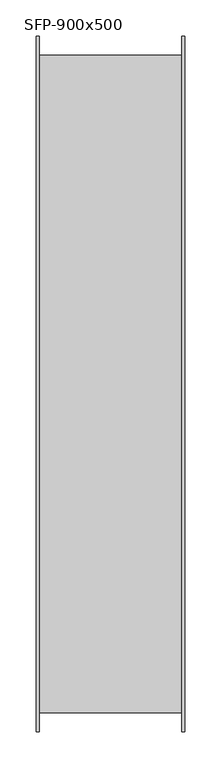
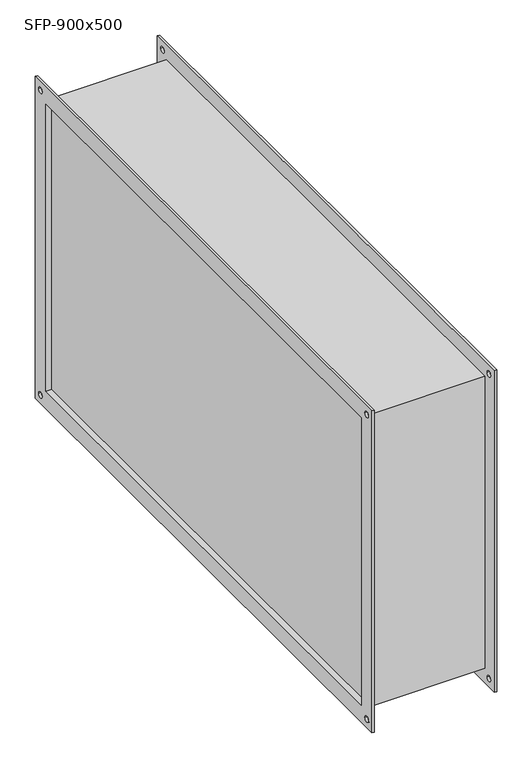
"""IFC4 building model written with IfcOpenShell, lengths in millimetres: damper geometry, СВ_ФильтрКассетный_КанальныйПрямоугольный_200-1000_SFP : SFP-900x500."""

from ifc_helpers import new_model, si_unit, frame, origin, place, context, project, spatial, polyline, circle_curve, outline, extrude, source, transform, mapped, element, save
from ifc_brep_helpers import plane_surface, revolved_surface, advanced_brep


def sfp_900x500_36470b2f(model_context):
    return source(origin(), model_context, "Body", "SolidModel", [
        extrude(outline(polyline([(92.5, 450.0), (92.5, -450.0), (-92.5, -450.0), (-92.5, 450.0), (92.5, 450.0)])), frame((0.0, 0.0, -250.0), z_axis=(0.0, 0.0, 1.0), x_axis=(1.0, 0.0, 0.0)), (0.0, 0.0, 1.0), 500.0),
        advanced_brep(
        [(98.5, -454.0, 254.0), (-98.5, -454.0, 254.0), (-98.5, -454.0, -254.0), (98.5, -454.0, -254.0), (-98.5, 454.0, -254.0), (98.5, 454.0, -254.0), (-98.5, 454.0, 254.0), (98.5, 454.0, 254.0), (-102.5, -480.0, 280.0), (-102.5, 480.0, 280.0), (-102.5, 480.0, -280.0), (-102.5, -480.0, -280.0), (-102.5, -450.0, 250.0), (-102.5, -450.0, -250.0), (-102.5, 450.0, -250.0), (-102.5, 450.0, 250.0), (-102.5, 460.0, 265.0), (-102.5, 470.0, 265.0), (-102.5, -470.0, 265.0), (-102.5, -460.0, 265.0), (-102.5, -470.0, -265.0), (-102.5, -460.0, -265.0), (-102.5, 460.0, -265.0), (-102.5, 470.0, -265.0), (-98.5, -480.0, 280.0), (-98.5, -480.0, -280.0), (-98.5, 480.0, -280.0), (-98.5, 480.0, 280.0), (-98.5, 470.0, 265.0), (-98.5, 460.0, 265.0), (-98.5, -460.0, 265.0), (-98.5, -470.0, 265.0), (-98.5, -460.0, -265.0), (-98.5, -470.0, -265.0), (-98.5, 470.0, -265.0), (-98.5, 460.0, -265.0), (98.5, 480.0, 280.0), (98.5, 480.0, -280.0), (98.5, -480.0, -280.0), (98.5, -480.0, 280.0), (98.5, 460.0, 265.0), (98.5, 470.0, 265.0), (98.5, -470.0, 265.0), (98.5, -460.0, 265.0), (98.5, -470.0, -265.0), (98.5, -460.0, -265.0), (98.5, 460.0, -265.0), (98.5, 470.0, -265.0), (102.5, 480.0, 280.0), (102.5, -480.0, 280.0), (102.5, -480.0, -280.0), (102.5, 480.0, -280.0), (102.5, 450.0, 250.0), (102.5, 450.0, -250.0), (102.5, -450.0, -250.0), (102.5, -450.0, 250.0), (102.5, 470.0, 265.0), (102.5, 460.0, 265.0), (102.5, -460.0, 265.0), (102.5, -470.0, 265.0), (102.5, -460.0, -265.0), (102.5, -470.0, -265.0), (102.5, 470.0, -265.0), (102.5, 460.0, -265.0)],
        [
            (0, 1),
            (1, 2),
            (2, 3),
            (3, 0),
            (2, 4),
            (4, 5),
            (5, 3),
            (4, 6),
            (6, 7),
            (7, 5),
            (0, 7),
            (6, 1),
            (8, 9),
            (9, 10),
            (10, 11),
            (11, 8),
            (12, 13),
            (13, 14),
            (14, 15),
            (15, 12),
            (16, 17, circle_curve(frame((-102.5, 465.0, 265.0), z_axis=(1.0, 0.0, 0.0), x_axis=(0.0, 1.0, 0.0)), 5.0)),
            (17, 16, circle_curve(frame((-102.5, 465.0, 265.0), z_axis=(1.0, 0.0, 0.0), x_axis=(0.0, 1.0, 0.0)), 5.0)),
            (18, 19, circle_curve(frame((-102.5, -465.0, 265.0), z_axis=(1.0, 0.0, 0.0), x_axis=(0.0, 1.0, 0.0)), 5.0)),
            (19, 18, circle_curve(frame((-102.5, -465.0, 265.0), z_axis=(1.0, 0.0, 0.0), x_axis=(0.0, 1.0, 0.0)), 5.0)),
            (20, 21, circle_curve(frame((-102.5, -465.0, -265.0), z_axis=(1.0, 0.0, 0.0), x_axis=(0.0, 1.0, 0.0)), 5.0)),
            (21, 20, circle_curve(frame((-102.5, -465.0, -265.0), z_axis=(1.0, 0.0, 0.0), x_axis=(0.0, 1.0, 0.0)), 5.0)),
            (22, 23, circle_curve(frame((-102.5, 465.0, -265.0), z_axis=(1.0, 0.0, 0.0), x_axis=(0.0, 1.0, 0.0)), 5.0)),
            (23, 22, circle_curve(frame((-102.5, 465.0, -265.0), z_axis=(1.0, 0.0, 0.0), x_axis=(0.0, 1.0, 0.0)), 5.0)),
            (24, 25),
            (25, 26),
            (26, 27),
            (27, 24),
            (28, 29, circle_curve(frame((-98.5, 465.0, 265.0), z_axis=(-1.0, 0.0, 0.0), x_axis=(0.0, 1.0, 0.0)), 5.0)),
            (29, 28, circle_curve(frame((-98.5, 465.0, 265.0), z_axis=(-1.0, 0.0, 0.0), x_axis=(0.0, 1.0, 0.0)), 5.0)),
            (30, 31, circle_curve(frame((-98.5, -465.0, 265.0), z_axis=(-1.0, 0.0, 0.0), x_axis=(0.0, 1.0, 0.0)), 5.0)),
            (31, 30, circle_curve(frame((-98.5, -465.0, 265.0), z_axis=(-1.0, 0.0, 0.0), x_axis=(0.0, 1.0, 0.0)), 5.0)),
            (32, 33, circle_curve(frame((-98.5, -465.0, -265.0), z_axis=(-1.0, 0.0, 0.0), x_axis=(0.0, 1.0, 0.0)), 5.0)),
            (33, 32, circle_curve(frame((-98.5, -465.0, -265.0), z_axis=(-1.0, 0.0, 0.0), x_axis=(0.0, 1.0, 0.0)), 5.0)),
            (34, 35, circle_curve(frame((-98.5, 465.0, -265.0), z_axis=(-1.0, 0.0, 0.0), x_axis=(0.0, 1.0, 0.0)), 5.0)),
            (35, 34, circle_curve(frame((-98.5, 465.0, -265.0), z_axis=(-1.0, 0.0, 0.0), x_axis=(0.0, 1.0, 0.0)), 5.0)),
            (11, 25),
            (24, 8),
            (10, 26),
            (9, 27),
            (36, 37),
            (37, 38),
            (38, 39),
            (39, 36),
            (40, 41, circle_curve(frame((98.5, 465.0, 265.0), z_axis=(1.0, 0.0, 0.0), x_axis=(0.0, 1.0, 0.0)), 5.0)),
            (41, 40, circle_curve(frame((98.5, 465.0, 265.0), z_axis=(1.0, 0.0, 0.0), x_axis=(0.0, 1.0, 0.0)), 5.0)),
            (42, 43, circle_curve(frame((98.5, -465.0, 265.0), z_axis=(1.0, 0.0, 0.0), x_axis=(0.0, 1.0, 0.0)), 5.0)),
            (43, 42, circle_curve(frame((98.5, -465.0, 265.0), z_axis=(1.0, 0.0, 0.0), x_axis=(0.0, 1.0, 0.0)), 5.0)),
            (44, 45, circle_curve(frame((98.5, -465.0, -265.0), z_axis=(1.0, 0.0, 0.0), x_axis=(0.0, 1.0, 0.0)), 5.0)),
            (45, 44, circle_curve(frame((98.5, -465.0, -265.0), z_axis=(1.0, 0.0, 0.0), x_axis=(0.0, 1.0, 0.0)), 5.0)),
            (46, 47, circle_curve(frame((98.5, 465.0, -265.0), z_axis=(1.0, 0.0, 0.0), x_axis=(0.0, 1.0, 0.0)), 5.0)),
            (47, 46, circle_curve(frame((98.5, 465.0, -265.0), z_axis=(1.0, 0.0, 0.0), x_axis=(0.0, 1.0, 0.0)), 5.0)),
            (48, 49),
            (49, 50),
            (50, 51),
            (51, 48),
            (52, 53),
            (53, 54),
            (54, 55),
            (55, 52),
            (56, 57, circle_curve(frame((102.5, 465.0, 265.0), z_axis=(-1.0, 0.0, 0.0), x_axis=(0.0, 1.0, 0.0)), 5.0)),
            (57, 56, circle_curve(frame((102.5, 465.0, 265.0), z_axis=(-1.0, 0.0, 0.0), x_axis=(0.0, 1.0, 0.0)), 5.0)),
            (58, 59, circle_curve(frame((102.5, -465.0, 265.0), z_axis=(-1.0, 0.0, 0.0), x_axis=(0.0, 1.0, 0.0)), 5.0)),
            (59, 58, circle_curve(frame((102.5, -465.0, 265.0), z_axis=(-1.0, 0.0, 0.0), x_axis=(0.0, 1.0, 0.0)), 5.0)),
            (60, 61, circle_curve(frame((102.5, -465.0, -265.0), z_axis=(-1.0, 0.0, 0.0), x_axis=(0.0, 1.0, 0.0)), 5.0)),
            (61, 60, circle_curve(frame((102.5, -465.0, -265.0), z_axis=(-1.0, 0.0, 0.0), x_axis=(0.0, 1.0, 0.0)), 5.0)),
            (62, 63, circle_curve(frame((102.5, 465.0, -265.0), z_axis=(-1.0, 0.0, 0.0), x_axis=(0.0, 1.0, 0.0)), 5.0)),
            (63, 62, circle_curve(frame((102.5, 465.0, -265.0), z_axis=(-1.0, 0.0, 0.0), x_axis=(0.0, 1.0, 0.0)), 5.0)),
            (39, 49),
            (48, 36),
            (38, 50),
            (37, 51),
            (15, 52),
            (55, 12),
            (14, 53),
            (13, 54),
            (16, 29),
            (28, 17),
            (40, 57),
            (56, 41),
            (18, 31),
            (30, 19),
            (42, 59),
            (58, 43),
            (20, 33),
            (32, 21),
            (44, 61),
            (60, 45),
            (22, 35),
            (34, 23),
            (46, 63),
            (62, 47),
        ],
        [
            plane_surface(frame((98.5, -454.0, 254.0), z_axis=(0.0, -1.0, 0.0), x_axis=(-1.0, 0.0, 0.0))),
            plane_surface(frame((98.5, -454.0, -254.0), z_axis=(0.0, 0.0, -1.0), x_axis=(-1.0, 0.0, 0.0))),
            plane_surface(frame((98.5, 454.0, -254.0), z_axis=(0.0, 1.0, 0.0), x_axis=(-1.0, 0.0, 0.0))),
            plane_surface(frame((98.5, 454.0, 254.0), z_axis=(0.0, 0.0, 1.0), x_axis=(-1.0, 0.0, 0.0))),
            plane_surface(frame((-102.5, -480.0, 280.0), z_axis=(-1.0, 0.0, 0.0), x_axis=(0.0, 0.0, 1.0))),
            plane_surface(frame((-98.5, -480.0, 280.0), z_axis=(1.0, 0.0, 0.0), x_axis=(0.0, 0.0, -1.0))),
            plane_surface(frame((-98.5, -480.0, 280.0), z_axis=(0.0, -1.0, 0.0), x_axis=(-1.0, 0.0, 0.0))),
            plane_surface(frame((-98.5, -480.0, -280.0), z_axis=(0.0, 0.0, -1.0), x_axis=(-1.0, 0.0, 0.0))),
            plane_surface(frame((-98.5, 480.0, -280.0), z_axis=(0.0, 1.0, 0.0), x_axis=(-1.0, 0.0, 0.0))),
            plane_surface(frame((-98.5, 480.0, 280.0), z_axis=(0.0, 0.0, 1.0), x_axis=(-1.0, 0.0, 0.0))),
            plane_surface(frame((98.5, 450.0, -250.0), z_axis=(-1.0, 0.0, 0.0), x_axis=(0.0, 0.0, 1.0))),
            plane_surface(frame((102.5, 450.0, -250.0), z_axis=(1.0, 0.0, 0.0), x_axis=(0.0, 0.0, -1.0))),
            plane_surface(frame((102.5, 480.0, 280.0), z_axis=(0.0, 0.0, 1.0), x_axis=(-1.0, 0.0, 0.0))),
            plane_surface(frame((102.5, -480.0, 280.0), z_axis=(0.0, -1.0, 0.0), x_axis=(-1.0, 0.0, 0.0))),
            plane_surface(frame((102.5, -480.0, -280.0), z_axis=(0.0, 0.0, -1.0), x_axis=(-1.0, 0.0, 0.0))),
            plane_surface(frame((102.5, 480.0, -280.0), z_axis=(0.0, 1.0, 0.0), x_axis=(-1.0, 0.0, 0.0))),
            plane_surface(frame((-98.5, -450.0, 250.0), z_axis=(0.0, 0.0, -1.0), x_axis=(-1.0, 0.0, 0.0))),
            plane_surface(frame((-98.5, 450.0, 250.0), z_axis=(0.0, -1.0, 0.0), x_axis=(-1.0, 0.0, 0.0))),
            plane_surface(frame((-98.5, 450.0, -250.0), z_axis=(0.0, 0.0, 1.0), x_axis=(-1.0, 0.0, 0.0))),
            plane_surface(frame((-98.5, -450.0, -250.0), z_axis=(0.0, 1.0, 0.0), x_axis=(-1.0, 0.0, 0.0))),
            revolved_surface(polyline([(-98.5, 470.0, 265.0), (-102.5, 470.0, 265.0)]), (-102.5, 465.0, 265.0), (1.0, 0.0, 0.0)),
            revolved_surface(polyline([(102.5, 470.0, 265.0), (98.5, 470.0, 265.0)]), (-102.5, 465.0, 265.0), (1.0, 0.0, 0.0)),
            revolved_surface(polyline([(-98.5, -460.0, 265.0), (-102.5, -460.0, 265.0)]), (0.0, -465.0, 265.0), (1.0, 0.0, 0.0)),
            revolved_surface(polyline([(102.5, -460.0, 265.0), (98.5, -460.0, 265.0)]), (0.0, -465.0, 265.0), (1.0, 0.0, 0.0)),
            revolved_surface(polyline([(-98.5, -460.0, -265.0), (-102.5, -460.0, -265.0)]), (0.0, -465.0, -265.0), (1.0, 0.0, 0.0)),
            revolved_surface(polyline([(102.5, -460.0, -265.0), (98.5, -460.0, -265.0)]), (0.0, -465.0, -265.0), (1.0, 0.0, 0.0)),
            revolved_surface(polyline([(-98.5, 470.0, -265.0), (-102.5, 470.0, -265.0)]), (0.0, 465.0, -265.0), (1.0, 0.0, 0.0)),
            revolved_surface(polyline([(102.5, 470.0, -265.0), (98.5, 470.0, -265.0)]), (0.0, 465.0, -265.0), (1.0, 0.0, 0.0)),
        ],
        [
            (0, [[1, 2, 3, 4]]),
            (1, [[-3, 5, 6, 7]]),
            (2, [[-6, 8, 9, 10]]),
            (3, [[-1, 11, -9, 12]]),
            (4, [[13, 14, 15, 16], [17, 18, 19, 20], [21, 22], [23, 24], [25, 26], [27, 28]]),
            (5, [[29, 30, 31, 32], [-2, -12, -8, -5], [33, 34], [35, 36], [37, 38], [39, 40]]),
            (6, [[-16, 41, -29, 42]]),
            (7, [[-15, 43, -30, -41]]),
            (8, [[-14, 44, -31, -43]]),
            (9, [[-13, -42, -32, -44]]),
            (10, [[45, 46, 47, 48], [-4, -7, -10, -11], [49, 50], [51, 52], [53, 54], [55, 56]]),
            (11, [[57, 58, 59, 60], [61, 62, 63, 64], [65, 66], [67, 68], [69, 70], [71, 72]]),
            (12, [[-48, 73, -57, 74]]),
            (13, [[-47, 75, -58, -73]]),
            (14, [[-46, 76, -59, -75]]),
            (15, [[-45, -74, -60, -76]]),
            (16, [[-20, 77, -64, 78]]),
            (17, [[-77, -19, 79, -61]]),
            (18, [[-79, -18, 80, -62]]),
            (19, [[-80, -17, -78, -63]]),
            (20, [[81, -33, 82, -21]]),
            (21, [[83, -65, 84, -49]]),
            (20, [[-81, -22, -82, -34]]),
            (21, [[-83, -50, -84, -66]]),
            (22, [[85, -35, 86, -23]]),
            (23, [[87, -67, 88, -51]]),
            (22, [[-85, -24, -86, -36]]),
            (23, [[-87, -52, -88, -68]]),
            (24, [[89, -37, 90, -25]]),
            (25, [[91, -69, 92, -53]]),
            (24, [[-89, -26, -90, -38]]),
            (25, [[-91, -54, -92, -70]]),
            (26, [[93, -39, 94, -27]]),
            (27, [[95, -71, 96, -55]]),
            (26, [[-93, -28, -94, -40]]),
            (27, [[-95, -56, -96, -72]]),
        ],
    ),
    ])


if __name__ == "__main__":
    model = new_model("IFC4")
    model_context = context("Model", 3, world=origin())
    ifc_project = project(units=[si_unit("LENGTHUNIT", "METRE", prefix="MILLI")], contexts=[model_context])
    site = spatial("IfcSite", under=ifc_project)
    building = spatial("IfcBuilding", under=site)
    placement = place(None, origin())
    sfp_900x500_shape = sfp_900x500_36470b2f(model_context)
    element("IfcDamper", 1, ObjectType="СВ_ФильтрКассетный_КанальныйПрямоугольный_200-1000_SFP : SFP-900x500", at=placement, inside=building, context=model_context, shape_type="MappedRepresentation", body=[
        mapped(sfp_900x500_shape, transform((0.0, 0.0, 0.0), x_axis=(1.0, 0.0, 0.0), y_axis=(0.0, 1.0, 0.0), z_axis=(0.0, 0.0, 1.0))),
    ])
    save(model, "model.ifc")
